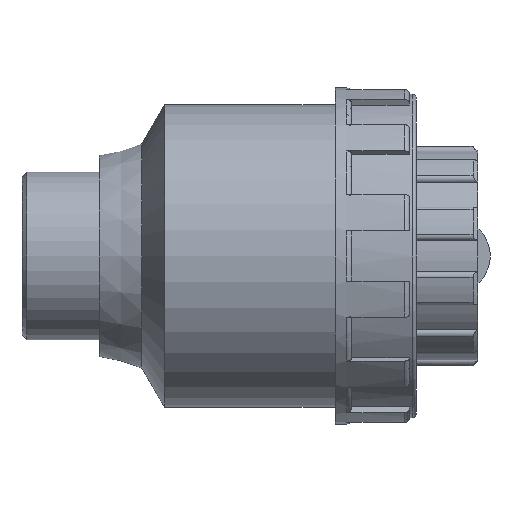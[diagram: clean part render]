
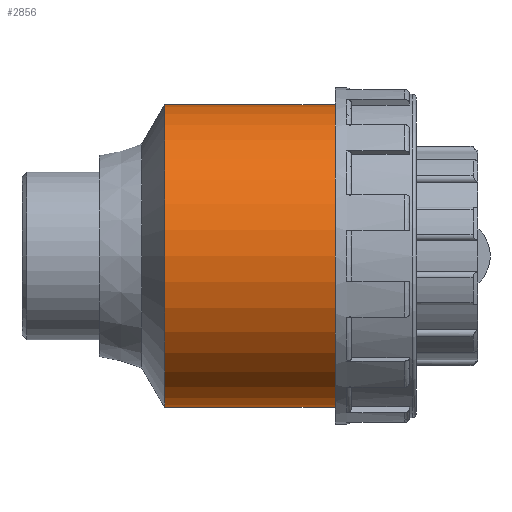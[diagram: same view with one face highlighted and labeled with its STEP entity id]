
A CAD part, front view. The second image highlights one B-rep face of the part: STEP entity #2856.
In plain terms, the highlighted cylindrical face has radius 43.2 mm (diameter 86.4 mm), a full revolution.
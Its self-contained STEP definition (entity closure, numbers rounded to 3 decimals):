
#35=FACE_BOUND('',#506,.T.);
#36=FACE_BOUND('',#507,.T.);
#317=FACE_OUTER_BOUND('',#505,.T.);
#505=EDGE_LOOP('',(#2627));
#506=EDGE_LOOP('',(#2628));
#507=EDGE_LOOP('',(#2629));
#699=CIRCLE('',#3209,43.2);
#700=CIRCLE('',#3211,43.2);
#1051=B_SPLINE_CURVE_WITH_KNOTS('',3,(#4692,#4693,#4694,#4695,#4696,#4697,
#4698,#4699,#4700,#4701,#4702,#4703,#4704,#4705,#4706,#4707,#4708,#4709,
#4710,#4711,#4712,#4713,#4714,#4715,#4716,#4717,#4718,#4719,#4720,#4721,
#4722,#4723,#4724,#4725,#4726,#4727,#4728,#4729,#4730,#4731,#4732,#4733,
#4734,#4735,#4736,#4737,#4738,#4739,#4740,#4741),.UNSPECIFIED.,.T.,.F.,
(4,2,2,2,2,2,2,2,2,2,2,2,2,2,2,2,2,2,2,2,2,2,2,2,4),(0.,0.274,
0.547,1.094,1.641,1.915,2.188,
2.461,2.735,3.282,3.829,4.102,
4.376,4.649,4.923,5.47,6.017,
6.29,6.564,6.837,7.111,7.658,
8.205,8.478,8.752),.UNSPECIFIED.);
#1215=VERTEX_POINT('',#4691);
#1374=VERTEX_POINT('',#5649);
#1375=VERTEX_POINT('',#5652);
#1563=EDGE_CURVE('',#1215,#1215,#1051,.T.);
#1794=EDGE_CURVE('',#1374,#1374,#699,.T.);
#1795=EDGE_CURVE('',#1375,#1375,#700,.T.);
#2627=ORIENTED_EDGE('',*,*,#1795,.F.);
#2628=ORIENTED_EDGE('',*,*,#1563,.T.);
#2629=ORIENTED_EDGE('',*,*,#1794,.T.);
#2691=CYLINDRICAL_SURFACE('',#3210,43.2);
#2856=ADVANCED_FACE('',(#317,#35,#36),#2691,.T.);
#3209=AXIS2_PLACEMENT_3D('',#5650,#4076,#4077);
#3210=AXIS2_PLACEMENT_3D('',#5651,#4078,#4079);
#3211=AXIS2_PLACEMENT_3D('',#5653,#4080,#4081);
#4076=DIRECTION('center_axis',(1.,0.,0.));
#4077=DIRECTION('ref_axis',(0.,0.,-1.));
#4078=DIRECTION('center_axis',(1.,0.,0.));
#4079=DIRECTION('ref_axis',(0.,1.,0.));
#4080=DIRECTION('center_axis',(1.,0.,0.));
#4081=DIRECTION('ref_axis',(0.,0.,-1.));
#4691=CARTESIAN_POINT('',(0.,40.729,-14.4));
#4692=CARTESIAN_POINT('Ctrl Pts',(0.,40.729,
-14.4));
#4693=CARTESIAN_POINT('Ctrl Pts',(0.912,40.729,-14.4));
#4694=CARTESIAN_POINT('Ctrl Pts',(1.852,40.761,-14.312));
#4695=CARTESIAN_POINT('Ctrl Pts',(3.719,40.888,-13.944));
#4696=CARTESIAN_POINT('Ctrl Pts',(4.644,40.984,-13.664));
#4697=CARTESIAN_POINT('Ctrl Pts',(7.302,41.341,-12.559));
#4698=CARTESIAN_POINT('Ctrl Pts',(8.911,41.675,-11.453));
#4699=CARTESIAN_POINT('Ctrl Pts',(11.453,42.291,-8.912));
#4700=CARTESIAN_POINT('Ctrl Pts',(12.559,42.616,-7.302));
#4701=CARTESIAN_POINT('Ctrl Pts',(13.664,42.959,-4.644));
#4702=CARTESIAN_POINT('Ctrl Pts',(13.944,43.05,-3.718));
#4703=CARTESIAN_POINT('Ctrl Pts',(14.312,43.17,-1.852));
#4704=CARTESIAN_POINT('Ctrl Pts',(14.4,43.2,-0.911));
#4705=CARTESIAN_POINT('Ctrl Pts',(14.4,43.2,0.911));
#4706=CARTESIAN_POINT('Ctrl Pts',(14.312,43.17,1.852));
#4707=CARTESIAN_POINT('Ctrl Pts',(13.944,43.05,3.718));
#4708=CARTESIAN_POINT('Ctrl Pts',(13.664,42.959,4.644));
#4709=CARTESIAN_POINT('Ctrl Pts',(12.559,42.616,7.302));
#4710=CARTESIAN_POINT('Ctrl Pts',(11.453,42.291,8.912));
#4711=CARTESIAN_POINT('Ctrl Pts',(8.911,41.675,11.453));
#4712=CARTESIAN_POINT('Ctrl Pts',(7.302,41.341,12.559));
#4713=CARTESIAN_POINT('Ctrl Pts',(4.644,40.984,13.664));
#4714=CARTESIAN_POINT('Ctrl Pts',(3.719,40.888,13.944));
#4715=CARTESIAN_POINT('Ctrl Pts',(1.852,40.761,14.312));
#4716=CARTESIAN_POINT('Ctrl Pts',(0.912,40.729,14.4));
#4717=CARTESIAN_POINT('Ctrl Pts',(-0.912,40.729,14.4));
#4718=CARTESIAN_POINT('Ctrl Pts',(-1.852,40.761,14.312));
#4719=CARTESIAN_POINT('Ctrl Pts',(-3.719,40.888,13.944));
#4720=CARTESIAN_POINT('Ctrl Pts',(-4.644,40.984,13.664));
#4721=CARTESIAN_POINT('Ctrl Pts',(-7.302,41.341,12.559));
#4722=CARTESIAN_POINT('Ctrl Pts',(-8.911,41.675,11.453));
#4723=CARTESIAN_POINT('Ctrl Pts',(-11.453,42.291,8.912));
#4724=CARTESIAN_POINT('Ctrl Pts',(-12.559,42.616,7.302));
#4725=CARTESIAN_POINT('Ctrl Pts',(-13.664,42.959,4.644));
#4726=CARTESIAN_POINT('Ctrl Pts',(-13.944,43.05,3.718));
#4727=CARTESIAN_POINT('Ctrl Pts',(-14.312,43.17,1.852));
#4728=CARTESIAN_POINT('Ctrl Pts',(-14.4,43.2,0.911));
#4729=CARTESIAN_POINT('Ctrl Pts',(-14.4,43.2,-0.911));
#4730=CARTESIAN_POINT('Ctrl Pts',(-14.312,43.17,-1.852));
#4731=CARTESIAN_POINT('Ctrl Pts',(-13.944,43.05,-3.718));
#4732=CARTESIAN_POINT('Ctrl Pts',(-13.664,42.959,-4.644));
#4733=CARTESIAN_POINT('Ctrl Pts',(-12.559,42.616,-7.302));
#4734=CARTESIAN_POINT('Ctrl Pts',(-11.453,42.291,-8.912));
#4735=CARTESIAN_POINT('Ctrl Pts',(-8.911,41.675,-11.453));
#4736=CARTESIAN_POINT('Ctrl Pts',(-7.302,41.341,-12.559));
#4737=CARTESIAN_POINT('Ctrl Pts',(-4.644,40.984,-13.664));
#4738=CARTESIAN_POINT('Ctrl Pts',(-3.719,40.888,-13.944));
#4739=CARTESIAN_POINT('Ctrl Pts',(-1.852,40.761,-14.312));
#4740=CARTESIAN_POINT('Ctrl Pts',(-0.912,40.729,-14.4));
#4741=CARTESIAN_POINT('Ctrl Pts',(0.,40.729,-14.4));
#5649=CARTESIAN_POINT('',(-24.3,43.2,0.));
#5650=CARTESIAN_POINT('Origin',(-24.3,0.,0.));
#5651=CARTESIAN_POINT('Origin',(0.,0.,0.));
#5652=CARTESIAN_POINT('',(24.3,43.2,0.));
#5653=CARTESIAN_POINT('Origin',(24.3,0.,0.));
